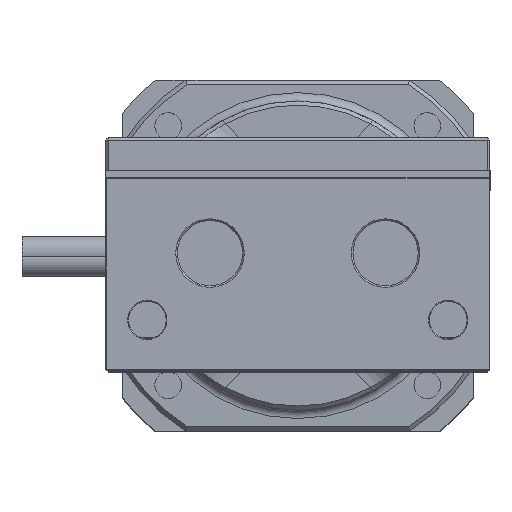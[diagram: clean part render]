
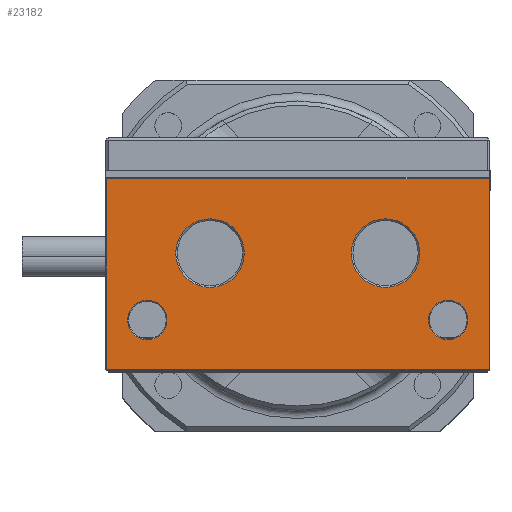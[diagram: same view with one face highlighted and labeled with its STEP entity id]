
A CAD part, top view. The second image highlights one B-rep face of the part: STEP entity #23182.
In plain terms, the highlighted planar face has unit normal (0, 0, 1).
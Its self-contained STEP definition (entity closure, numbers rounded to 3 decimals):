
#1274 = AXIS2_PLACEMENT_3D ( 'NONE', #32202, #86784, #40056 ) ;
#1507 = CARTESIAN_POINT ( 'NONE',  ( -14.6, 14., 134. ) ) ;
#2066 = LINE ( 'NONE', #37883, #43459 ) ;
#4169 = CARTESIAN_POINT ( 'NONE',  ( -10.5, 14., 134. ) ) ;
#5788 = FACE_BOUND ( 'NONE', #6480, .T. ) ;
#6299 = ORIENTED_EDGE ( 'NONE', *, *, #27762, .T. ) ;
#6349 = EDGE_CURVE ( 'NONE', #20966, #20311, #39255, .T. ) ;
#6480 = EDGE_LOOP ( 'NONE', ( #20525, #89021 ) ) ;
#6498 = ORIENTED_EDGE ( 'NONE', *, *, #44858, .T. ) ;
#9615 = AXIS2_PLACEMENT_3D ( 'NONE', #80504, #33806, #88394 ) ;
#10215 = EDGE_CURVE ( 'NONE', #16344, #13246, #92151, .T. ) ;
#11163 = CIRCLE ( 'NONE', #9615, 4.1 ) ;
#11525 = ORIENTED_EDGE ( 'NONE', *, *, #10215, .T. ) ;
#11976 = DIRECTION ( 'NONE',  ( -1., 0., 0. ) ) ;
#13246 = VERTEX_POINT ( 'NONE', #22713 ) ;
#13609 = VECTOR ( 'NONE', #27285, 1000. ) ;
#15166 = CARTESIAN_POINT ( 'NONE',  ( -22.9, 22.9, 134. ) ) ;
#15611 = EDGE_LOOP ( 'NONE', ( #28169, #88193 ) ) ;
#16234 = VERTEX_POINT ( 'NONE', #72008 ) ;
#16344 = VERTEX_POINT ( 'NONE', #88085 ) ;
#17637 = CARTESIAN_POINT ( 'NONE',  ( 15.65, 6., 134. ) ) ;
#17639 = CARTESIAN_POINT ( 'NONE',  ( -20.35, 6., 134. ) ) ;
#18060 = CARTESIAN_POINT ( 'NONE',  ( -23., 0., 134. ) ) ;
#18589 = CARTESIAN_POINT ( 'NONE',  ( -22.9, 0., 134. ) ) ;
#19229 = VECTOR ( 'NONE', #65251, 1000. ) ;
#19547 = CIRCLE ( 'NONE', #56427, 4.1 ) ;
#19730 = EDGE_CURVE ( 'NONE', #20311, #20966, #48650, .T. ) ;
#19969 = EDGE_LOOP ( 'NONE', ( #77681, #77394 ) ) ;
#20311 = VERTEX_POINT ( 'NONE', #17637 ) ;
#20525 = ORIENTED_EDGE ( 'NONE', *, *, #22744, .T. ) ;
#20966 = VERTEX_POINT ( 'NONE', #67848 ) ;
#22317 = DIRECTION ( 'NONE',  ( 0., 0., -1. ) ) ;
#22713 = CARTESIAN_POINT ( 'NONE',  ( 22.9, 0.1, 134. ) ) ;
#22744 = EDGE_CURVE ( 'NONE', #87212, #50647, #80192, .T. ) ;
#22746 = VERTEX_POINT ( 'NONE', #45757 ) ;
#23182 = ADVANCED_FACE ( 'NONE', ( #5788, #28906, #86314, #65473, #67933 ), #26554, .F. ) ;
#25956 = CARTESIAN_POINT ( 'NONE',  ( -18., 6., 134. ) ) ;
#26554 = PLANE ( 'NONE',  #89302 ) ;
#26848 = DIRECTION ( 'NONE',  ( 0., 0., -1. ) ) ;
#27285 = DIRECTION ( 'NONE',  ( -1., 0., 0. ) ) ;
#27762 = EDGE_CURVE ( 'NONE', #91504, #16344, #65562, .T. ) ;
#28169 = ORIENTED_EDGE ( 'NONE', *, *, #41128, .T. ) ;
#28906 = FACE_BOUND ( 'NONE', #15611, .T. ) ;
#32202 = CARTESIAN_POINT ( 'NONE',  ( -10.5, 14., 134. ) ) ;
#33781 = DIRECTION ( 'NONE',  ( -1., 0., 0. ) ) ;
#33806 = DIRECTION ( 'NONE',  ( 0., 0., -1. ) ) ;
#34222 = ORIENTED_EDGE ( 'NONE', *, *, #37509, .T. ) ;
#34380 = DIRECTION ( 'NONE',  ( -1., 0., 0. ) ) ;
#36832 = CIRCLE ( 'NONE', #88385, 2.35 ) ;
#37413 = EDGE_CURVE ( 'NONE', #50647, #87212, #11163, .T. ) ;
#37509 = EDGE_CURVE ( 'NONE', #64239, #91504, #68424, .T. ) ;
#37883 = CARTESIAN_POINT ( 'NONE',  ( 22.9, 23., 134. ) ) ;
#39255 = CIRCLE ( 'NONE', #82683, 2.35 ) ;
#39828 = CARTESIAN_POINT ( 'NONE',  ( -18., 6., 134. ) ) ;
#40056 = DIRECTION ( 'NONE',  ( -1., 0., 0. ) ) ;
#41128 = EDGE_CURVE ( 'NONE', #16234, #47429, #47521, .T. ) ;
#43459 = VECTOR ( 'NONE', #84577, 1000. ) ;
#43973 = VERTEX_POINT ( 'NONE', #17639 ) ;
#44858 = EDGE_CURVE ( 'NONE', #13246, #64239, #2066, .T. ) ;
#44986 = EDGE_LOOP ( 'NONE', ( #34222, #6299, #11525, #6498 ) ) ;
#45757 = CARTESIAN_POINT ( 'NONE',  ( -15.65, 6., 134. ) ) ;
#46436 = CARTESIAN_POINT ( 'NONE',  ( 10.5, 14., 134. ) ) ;
#47429 = VERTEX_POINT ( 'NONE', #1507 ) ;
#47521 = CIRCLE ( 'NONE', #1274, 4.1 ) ;
#47702 = DIRECTION ( 'NONE',  ( -1., 0., 0. ) ) ;
#48650 = CIRCLE ( 'NONE', #61045, 2.35 ) ;
#50647 = VERTEX_POINT ( 'NONE', #88275 ) ;
#52646 = EDGE_CURVE ( 'NONE', #22746, #43973, #96641, .T. ) ;
#54288 = DIRECTION ( 'NONE',  ( -1., 0., 0. ) ) ;
#56427 = AXIS2_PLACEMENT_3D ( 'NONE', #4169, #58646, #11976 ) ;
#58646 = DIRECTION ( 'NONE',  ( 0., 0., -1. ) ) ;
#59960 = ORIENTED_EDGE ( 'NONE', *, *, #6349, .T. ) ;
#61045 = AXIS2_PLACEMENT_3D ( 'NONE', #73501, #26848, #81383 ) ;
#64239 = VERTEX_POINT ( 'NONE', #70440 ) ;
#65251 = DIRECTION ( 'NONE',  ( 0., -1., 0. ) ) ;
#65473 = FACE_BOUND ( 'NONE', #98061, .T. ) ;
#65562 = LINE ( 'NONE', #18589, #19229 ) ;
#65837 = EDGE_CURVE ( 'NONE', #43973, #22746, #36832, .T. ) ;
#66241 = AXIS2_PLACEMENT_3D ( 'NONE', #25956, #80474, #33781 ) ;
#67848 = CARTESIAN_POINT ( 'NONE',  ( 20.35, 6., 134. ) ) ;
#67933 = FACE_OUTER_BOUND ( 'NONE', #44986, .T. ) ;
#68424 = LINE ( 'NONE', #73959, #13609 ) ;
#68959 = CARTESIAN_POINT ( 'NONE',  ( 18., 6., 134. ) ) ;
#69990 = CARTESIAN_POINT ( 'NONE',  ( 14.6, 14., 134. ) ) ;
#70440 = CARTESIAN_POINT ( 'NONE',  ( 22.9, 22.9, 134. ) ) ;
#72008 = CARTESIAN_POINT ( 'NONE',  ( -6.4, 14., 134. ) ) ;
#72509 = CARTESIAN_POINT ( 'NONE',  ( 23., 0.1, 134. ) ) ;
#73501 = CARTESIAN_POINT ( 'NONE',  ( 18., 6., 134. ) ) ;
#73959 = CARTESIAN_POINT ( 'NONE',  ( -23., 22.9, 134. ) ) ;
#76803 = DIRECTION ( 'NONE',  ( -1., 0., 0. ) ) ;
#77394 = ORIENTED_EDGE ( 'NONE', *, *, #65837, .T. ) ;
#77681 = ORIENTED_EDGE ( 'NONE', *, *, #52646, .T. ) ;
#80192 = CIRCLE ( 'NONE', #80753, 4.1 ) ;
#80384 = DIRECTION ( 'NONE',  ( 1., 0., 0. ) ) ;
#80474 = DIRECTION ( 'NONE',  ( 0., 0., -1. ) ) ;
#80504 = CARTESIAN_POINT ( 'NONE',  ( 10.5, 14., 134. ) ) ;
#80753 = AXIS2_PLACEMENT_3D ( 'NONE', #46436, #100989, #54288 ) ;
#81082 = DIRECTION ( 'NONE',  ( 0., 0., -1. ) ) ;
#81383 = DIRECTION ( 'NONE',  ( -1., 0., 0. ) ) ;
#82683 = AXIS2_PLACEMENT_3D ( 'NONE', #68959, #22317, #76803 ) ;
#84236 = ORIENTED_EDGE ( 'NONE', *, *, #19730, .T. ) ;
#84577 = DIRECTION ( 'NONE',  ( 0., 1., 0. ) ) ;
#86314 = FACE_BOUND ( 'NONE', #19969, .T. ) ;
#86784 = DIRECTION ( 'NONE',  ( 0., 0., -1. ) ) ;
#87212 = VERTEX_POINT ( 'NONE', #69990 ) ;
#87263 = VECTOR ( 'NONE', #80384, 1000. ) ;
#88085 = CARTESIAN_POINT ( 'NONE',  ( -22.9, 0.1, 134. ) ) ;
#88193 = ORIENTED_EDGE ( 'NONE', *, *, #99715, .T. ) ;
#88275 = CARTESIAN_POINT ( 'NONE',  ( 6.4, 14., 134. ) ) ;
#88385 = AXIS2_PLACEMENT_3D ( 'NONE', #39828, #94432, #47702 ) ;
#88394 = DIRECTION ( 'NONE',  ( -1., 0., 0. ) ) ;
#89021 = ORIENTED_EDGE ( 'NONE', *, *, #37413, .T. ) ;
#89302 = AXIS2_PLACEMENT_3D ( 'NONE', #18060, #81082, #34380 ) ;
#91504 = VERTEX_POINT ( 'NONE', #15166 ) ;
#92151 = LINE ( 'NONE', #72509, #87263 ) ;
#94432 = DIRECTION ( 'NONE',  ( 0., 0., -1. ) ) ;
#96641 = CIRCLE ( 'NONE', #66241, 2.35 ) ;
#98061 = EDGE_LOOP ( 'NONE', ( #59960, #84236 ) ) ;
#99715 = EDGE_CURVE ( 'NONE', #47429, #16234, #19547, .T. ) ;
#100989 = DIRECTION ( 'NONE',  ( 0., 0., -1. ) ) ;
